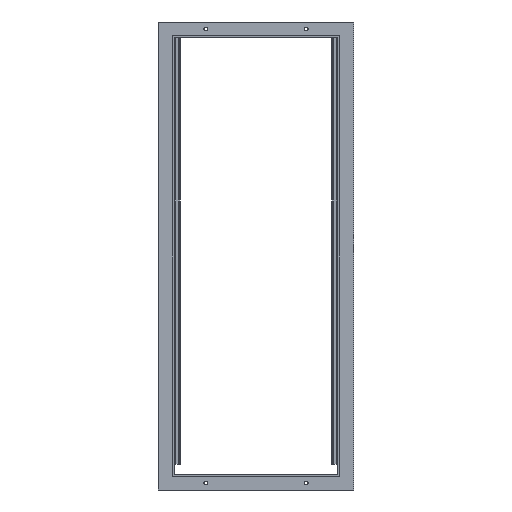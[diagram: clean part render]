
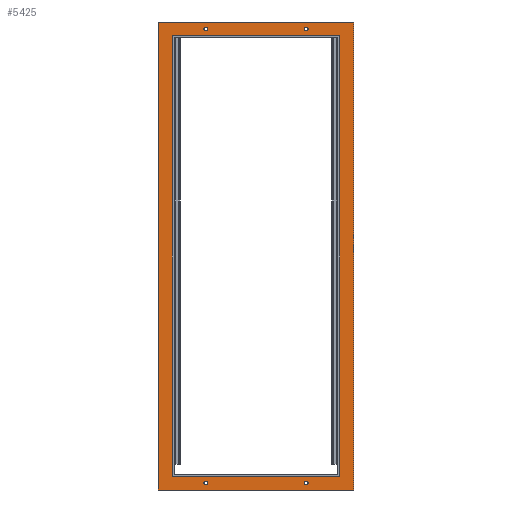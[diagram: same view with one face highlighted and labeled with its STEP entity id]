
A CAD part, front view. The second image highlights one B-rep face of the part: STEP entity #5425.
In plain terms, the highlighted planar face has unit normal (0, -1, 0).
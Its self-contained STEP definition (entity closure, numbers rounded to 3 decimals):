
#280 = EDGE_CURVE ( 'NONE', #51015, #24902, #6667, .T. ) ;
#593 = LINE ( 'NONE', #39560, #46558 ) ;
#832 = EDGE_CURVE ( 'NONE', #24902, #51015, #34362, .T. ) ;
#1662 = LINE ( 'NONE', #54441, #10709 ) ;
#1856 = CARTESIAN_POINT ( 'NONE',  ( 80., -5., 22. ) ) ;
#2059 = CARTESIAN_POINT ( 'NONE',  ( 420., -5., -1110. ) ) ;
#2251 = DIRECTION ( 'NONE',  ( 0., 1., 0. ) ) ;
#2510 = DIRECTION ( 'NONE',  ( 0., -1., 0. ) ) ;
#2584 = CIRCLE ( 'NONE', #5167, 4.5 ) ;
#2651 = AXIS2_PLACEMENT_3D ( 'NONE', #1856, #33021, #6343 ) ;
#3755 = DIRECTION ( 'NONE',  ( 1., 0., 0. ) ) ;
#3850 = CARTESIAN_POINT ( 'NONE',  ( 80., -5., 17.5 ) ) ;
#3866 = CARTESIAN_POINT ( 'NONE',  ( -40., -5., -1145. ) ) ;
#4819 = CARTESIAN_POINT ( 'NONE',  ( 455., -5., -1145. ) ) ;
#5167 = AXIS2_PLACEMENT_3D ( 'NONE', #57002, #30417, #3755 ) ;
#5425 = ADVANCED_FACE ( 'NONE', ( #30496, #54115, #18687, #6825, #52728, #40961 ), #11266, .T. ) ;
#5581 = VERTEX_POINT ( 'NONE', #4819 ) ;
#5717 = AXIS2_PLACEMENT_3D ( 'NONE', #28932, #2251, #33415 ) ;
#6137 = ORIENTED_EDGE ( 'NONE', *, *, #24021, .T. ) ;
#6196 = VERTEX_POINT ( 'NONE', #2059 ) ;
#6229 = EDGE_CURVE ( 'NONE', #28119, #32019, #37331, .T. ) ;
#6321 = CARTESIAN_POINT ( 'NONE',  ( 335., -5., -1131.5 ) ) ;
#6343 = DIRECTION ( 'NONE',  ( 1., 0., 0. ) ) ;
#6347 = DIRECTION ( 'NONE',  ( 0., 1., 0. ) ) ;
#6522 = ORIENTED_EDGE ( 'NONE', *, *, #17280, .T. ) ;
#6634 = EDGE_CURVE ( 'NONE', #40274, #55707, #15690, .T. ) ;
#6667 = CIRCLE ( 'NONE', #21212, 4.5 ) ;
#6793 = AXIS2_PLACEMENT_3D ( 'NONE', #52213, #25641, #56663 ) ;
#6825 = FACE_BOUND ( 'NONE', #17648, .T. ) ;
#7517 = CARTESIAN_POINT ( 'NONE',  ( -5., -5., -1110. ) ) ;
#8634 = CARTESIAN_POINT ( 'NONE',  ( 80., -5., 26.5 ) ) ;
#8673 = DIRECTION ( 'NONE',  ( -1., 0., 0. ) ) ;
#8820 = ORIENTED_EDGE ( 'NONE', *, *, #832, .T. ) ;
#8978 = ORIENTED_EDGE ( 'NONE', *, *, #20473, .T. ) ;
#9313 = CARTESIAN_POINT ( 'NONE',  ( 80., -5., -1122.5 ) ) ;
#9675 = ORIENTED_EDGE ( 'NONE', *, *, #43213, .T. ) ;
#9727 = VERTEX_POINT ( 'NONE', #17329 ) ;
#9914 = ORIENTED_EDGE ( 'NONE', *, *, #33926, .F. ) ;
#10423 = EDGE_CURVE ( 'NONE', #34893, #44648, #33938, .T. ) ;
#10709 = VECTOR ( 'NONE', #27880, 1000. ) ;
#10898 = ORIENTED_EDGE ( 'NONE', *, *, #17298, .F. ) ;
#11266 = PLANE ( 'NONE',  #39244 ) ;
#11627 = ORIENTED_EDGE ( 'NONE', *, *, #6229, .T. ) ;
#12301 = DIRECTION ( 'NONE',  ( 0., 1., 0. ) ) ;
#14205 = DIRECTION ( 'NONE',  ( 0., 1., 0. ) ) ;
#14513 = VERTEX_POINT ( 'NONE', #50673 ) ;
#15578 = VERTEX_POINT ( 'NONE', #7517 ) ;
#15690 = LINE ( 'NONE', #35651, #36535 ) ;
#16219 = ORIENTED_EDGE ( 'NONE', *, *, #35727, .T. ) ;
#16889 = LINE ( 'NONE', #30557, #45402 ) ;
#17280 = EDGE_CURVE ( 'NONE', #46271, #56598, #47163, .T. ) ;
#17298 = EDGE_CURVE ( 'NONE', #15578, #6196, #57525, .T. ) ;
#17329 = CARTESIAN_POINT ( 'NONE',  ( 455., -5., 40. ) ) ;
#17648 = EDGE_LOOP ( 'NONE', ( #55724, #18237 ) ) ;
#18237 = ORIENTED_EDGE ( 'NONE', *, *, #35134, .T. ) ;
#18687 = FACE_BOUND ( 'NONE', #30331, .T. ) ;
#20290 = CARTESIAN_POINT ( 'NONE',  ( 335., -5., -1122.5 ) ) ;
#20473 = EDGE_CURVE ( 'NONE', #32019, #28119, #2584, .T. ) ;
#21212 = AXIS2_PLACEMENT_3D ( 'NONE', #21311, #52392, #25808 ) ;
#21311 = CARTESIAN_POINT ( 'NONE',  ( 80., -5., -1127. ) ) ;
#21847 = DIRECTION ( 'NONE',  ( 0., 0., 1. ) ) ;
#22140 = CARTESIAN_POINT ( 'NONE',  ( 420., -5., 5. ) ) ;
#22744 = AXIS2_PLACEMENT_3D ( 'NONE', #40891, #14205, #45360 ) ;
#23700 = CIRCLE ( 'NONE', #48081, 4.5 ) ;
#24021 = EDGE_CURVE ( 'NONE', #9727, #55707, #26342, .T. ) ;
#24902 = VERTEX_POINT ( 'NONE', #30942 ) ;
#25641 = DIRECTION ( 'NONE',  ( 0., 1., 0. ) ) ;
#25808 = DIRECTION ( 'NONE',  ( 1., 0., 0. ) ) ;
#25820 = DIRECTION ( 'NONE',  ( 1., 0., 0. ) ) ;
#26342 = LINE ( 'NONE', #54551, #36733 ) ;
#26830 = CIRCLE ( 'NONE', #40429, 4.5 ) ;
#26841 = LINE ( 'NONE', #22140, #37249 ) ;
#27589 = CARTESIAN_POINT ( 'NONE',  ( 335., -5., 26.5 ) ) ;
#27880 = DIRECTION ( 'NONE',  ( 0., 0., 1. ) ) ;
#27989 = DIRECTION ( 'NONE',  ( -1., 0., 0. ) ) ;
#28002 = ORIENTED_EDGE ( 'NONE', *, *, #32669, .T. ) ;
#28119 = VERTEX_POINT ( 'NONE', #27589 ) ;
#28932 = CARTESIAN_POINT ( 'NONE',  ( 335., -5., 22. ) ) ;
#29193 = CARTESIAN_POINT ( 'NONE',  ( -5., -5., -1258.137 ) ) ;
#29612 = ORIENTED_EDGE ( 'NONE', *, *, #280, .T. ) ;
#30074 = CARTESIAN_POINT ( 'NONE',  ( -5., -5., -1110. ) ) ;
#30331 = EDGE_LOOP ( 'NONE', ( #29612, #8820 ) ) ;
#30417 = DIRECTION ( 'NONE',  ( 0., 1., 0. ) ) ;
#30496 = FACE_BOUND ( 'NONE', #43112, .T. ) ;
#30557 = CARTESIAN_POINT ( 'NONE',  ( -5., -5., -1258.137 ) ) ;
#30942 = CARTESIAN_POINT ( 'NONE',  ( 80., -5., -1131.5 ) ) ;
#31211 = DIRECTION ( 'NONE',  ( 0., 0., 1. ) ) ;
#32019 = VERTEX_POINT ( 'NONE', #57093 ) ;
#32669 = EDGE_CURVE ( 'NONE', #5581, #9727, #593, .T. ) ;
#33021 = DIRECTION ( 'NONE',  ( 0., 1., 0. ) ) ;
#33028 = CARTESIAN_POINT ( 'NONE',  ( 335., -5., -1127. ) ) ;
#33415 = DIRECTION ( 'NONE',  ( 1., 0., 0. ) ) ;
#33665 = DIRECTION ( 'NONE',  ( 1., 0., 0. ) ) ;
#33916 = CARTESIAN_POINT ( 'NONE',  ( -40., -5., -1145. ) ) ;
#33926 = EDGE_CURVE ( 'NONE', #6196, #40970, #1662, .T. ) ;
#33938 = CIRCLE ( 'NONE', #2651, 4.5 ) ;
#34039 = CARTESIAN_POINT ( 'NONE',  ( 420., -5., 5. ) ) ;
#34204 = EDGE_LOOP ( 'NONE', ( #10898, #55265, #40826, #9914 ) ) ;
#34362 = CIRCLE ( 'NONE', #22744, 4.5 ) ;
#34893 = VERTEX_POINT ( 'NONE', #8634 ) ;
#34950 = EDGE_LOOP ( 'NONE', ( #47355, #16219, #28002, #6137 ) ) ;
#35030 = DIRECTION ( 'NONE',  ( 0., 0., 1. ) ) ;
#35134 = EDGE_CURVE ( 'NONE', #44648, #34893, #26830, .T. ) ;
#35651 = CARTESIAN_POINT ( 'NONE',  ( -40., -5., -1258.137 ) ) ;
#35727 = EDGE_CURVE ( 'NONE', #40274, #5581, #56487, .T. ) ;
#36003 = EDGE_LOOP ( 'NONE', ( #9675, #6522 ) ) ;
#36535 = VECTOR ( 'NONE', #31211, 1000. ) ;
#36733 = VECTOR ( 'NONE', #27989, 1000. ) ;
#37249 = VECTOR ( 'NONE', #8673, 1000. ) ;
#37331 = CIRCLE ( 'NONE', #5717, 4.5 ) ;
#37480 = DIRECTION ( 'NONE',  ( 1., 0., 0. ) ) ;
#39000 = CARTESIAN_POINT ( 'NONE',  ( 80., -5., 22. ) ) ;
#39244 = AXIS2_PLACEMENT_3D ( 'NONE', #29193, #2510, #33665 ) ;
#39560 = CARTESIAN_POINT ( 'NONE',  ( 455., -5., -1145. ) ) ;
#40274 = VERTEX_POINT ( 'NONE', #33916 ) ;
#40429 = AXIS2_PLACEMENT_3D ( 'NONE', #39000, #12301, #43456 ) ;
#40826 = ORIENTED_EDGE ( 'NONE', *, *, #55670, .F. ) ;
#40891 = CARTESIAN_POINT ( 'NONE',  ( 80., -5., -1127. ) ) ;
#40961 = FACE_OUTER_BOUND ( 'NONE', #34950, .T. ) ;
#40970 = VERTEX_POINT ( 'NONE', #34039 ) ;
#42258 = EDGE_CURVE ( 'NONE', #15578, #14513, #16889, .T. ) ;
#43112 = EDGE_LOOP ( 'NONE', ( #11627, #8978 ) ) ;
#43213 = EDGE_CURVE ( 'NONE', #56598, #46271, #23700, .T. ) ;
#43319 = VECTOR ( 'NONE', #43952, 1000. ) ;
#43456 = DIRECTION ( 'NONE',  ( 1., 0., 0. ) ) ;
#43952 = DIRECTION ( 'NONE',  ( 1., 0., 0. ) ) ;
#44648 = VERTEX_POINT ( 'NONE', #3850 ) ;
#45360 = DIRECTION ( 'NONE',  ( 1., 0., 0. ) ) ;
#45402 = VECTOR ( 'NONE', #35030, 1000. ) ;
#45797 = VECTOR ( 'NONE', #25820, 1000. ) ;
#46271 = VERTEX_POINT ( 'NONE', #6321 ) ;
#46558 = VECTOR ( 'NONE', #21847, 1000. ) ;
#47163 = CIRCLE ( 'NONE', #6793, 4.5 ) ;
#47355 = ORIENTED_EDGE ( 'NONE', *, *, #6634, .F. ) ;
#48081 = AXIS2_PLACEMENT_3D ( 'NONE', #33028, #6347, #37480 ) ;
#50673 = CARTESIAN_POINT ( 'NONE',  ( -5., -5., 5. ) ) ;
#51015 = VERTEX_POINT ( 'NONE', #9313 ) ;
#52213 = CARTESIAN_POINT ( 'NONE',  ( 335., -5., -1127. ) ) ;
#52392 = DIRECTION ( 'NONE',  ( 0., 1., 0. ) ) ;
#52728 = FACE_BOUND ( 'NONE', #34204, .T. ) ;
#54115 = FACE_BOUND ( 'NONE', #36003, .T. ) ;
#54441 = CARTESIAN_POINT ( 'NONE',  ( 420., -5., -1110. ) ) ;
#54551 = CARTESIAN_POINT ( 'NONE',  ( 455., -5., 40. ) ) ;
#55265 = ORIENTED_EDGE ( 'NONE', *, *, #42258, .T. ) ;
#55670 = EDGE_CURVE ( 'NONE', #40970, #14513, #26841, .T. ) ;
#55707 = VERTEX_POINT ( 'NONE', #57623 ) ;
#55724 = ORIENTED_EDGE ( 'NONE', *, *, #10423, .T. ) ;
#56487 = LINE ( 'NONE', #3866, #43319 ) ;
#56598 = VERTEX_POINT ( 'NONE', #20290 ) ;
#56663 = DIRECTION ( 'NONE',  ( 1., 0., 0. ) ) ;
#57002 = CARTESIAN_POINT ( 'NONE',  ( 335., -5., 22. ) ) ;
#57093 = CARTESIAN_POINT ( 'NONE',  ( 335., -5., 17.5 ) ) ;
#57525 = LINE ( 'NONE', #30074, #45797 ) ;
#57623 = CARTESIAN_POINT ( 'NONE',  ( -40., -5., 40. ) ) ;
